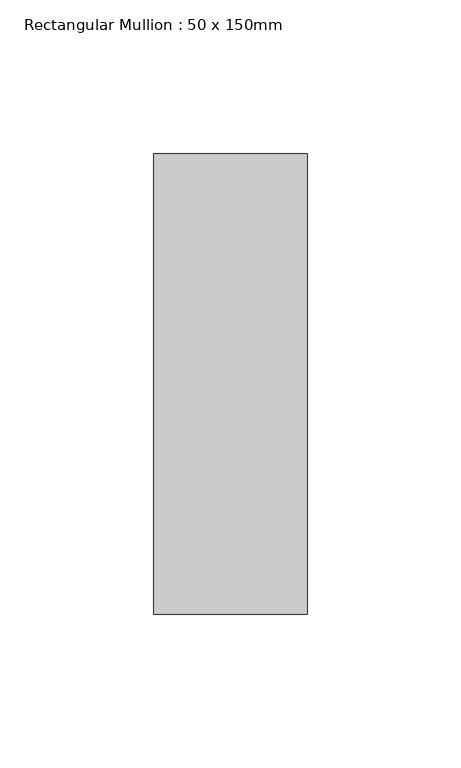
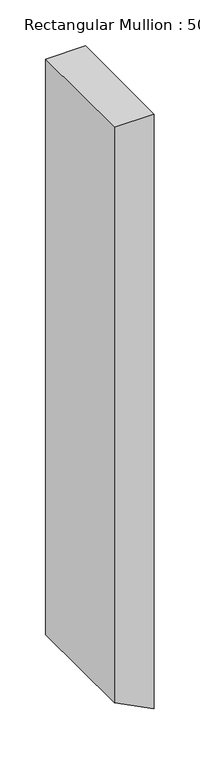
"""IFC4 building model written with IfcOpenShell, lengths in millimetres: member geometry, Rectangular Mullion : 50 x 150mm."""

import ifcopenshell
import ifcopenshell.guid

model = None  # the IFC model being written
_history = None  # IfcOwnerHistory: only IFC2X3 demands one
_inside = {}  # id of a spatial element -> (the spatial element, [elements in it])
_under = {}  # id of a project, library or spatial element -> (it, [spatial elements below it])
_declared = {}  # id of a project -> (the project, [libraries it declares])
_typed = {}  # id of a type object -> (the type object, [elements of that type])
_made_of = {}  # id of a material, layer set ... -> (it, [elements and type objects made of it])


def new_model(schema):
    """Start an empty IFC model of exactly this schema.

    Asked for "IFC4X3", IfcOpenShell would pick the latest addendum, in which some entities
    have other attributes; the version numbers below select the first issue.
    IFC2X3 requires an IfcOwnerHistory on every rooted entity: one is made here for all.
    """
    global model, _history
    if schema == "IFC4X3":
        model = ifcopenshell.file(schema_version=(4, 3, 0, 0))
    else:
        model = ifcopenshell.file(schema=schema)
    _inside.clear()
    _under.clear()
    _declared.clear()
    _typed.clear()
    _made_of.clear()
    _history = None
    if model.schema == "IFC2X3":
        org = make("IfcOrganization", Name="unknown")
        user = make(
            "IfcPersonAndOrganization",
            ThePerson=make("IfcPerson", FamilyName="unknown"),
            TheOrganization=org,
        )
        app = make(
            "IfcApplication",
            ApplicationDeveloper=org,
            Version="unknown",
            ApplicationFullName="unknown",
            ApplicationIdentifier="unknown",
        )
        _history = make(
            "IfcOwnerHistory",
            OwningUser=user,
            OwningApplication=app,
            ChangeAction="ADDED",
            CreationDate=0,
        )
    return model


def make(cls, **values):
    """One entity of the class cls with the attributes given. An attribute that is None is left unset."""
    return model.create_entity(
        cls, **{name: value for name, value in values.items() if value is not None}
    )


def rooted(cls, **values):
    """An entity with a GlobalId (a new one), such as an element, a storey or a relation."""
    return make(cls, GlobalId=ifcopenshell.guid.new(), OwnerHistory=_history, **values)


def si_unit(unit_type, name, prefix=None):
    """IfcSIUnit, for example si_unit("LENGTHUNIT", "METRE", prefix="MILLI")."""
    return make("IfcSIUnit", UnitType=unit_type, Prefix=prefix, Name=name)


def assignment(units):
    """IfcUnitAssignment: the units of a project."""
    return None if units is None else make("IfcUnitAssignment", Units=units)


def point(xyz):
    """IfcCartesianPoint."""
    return None if xyz is None else make("IfcCartesianPoint", Coordinates=xyz)


def direction(xyz):
    """IfcDirection."""
    return None if xyz is None else make("IfcDirection", DirectionRatios=xyz)


def frame(location, z_axis=None, x_axis=None):
    """IfcAxis2Placement3D, a coordinate frame: its origin and axes. An axis left out is left unset."""
    return make(
        "IfcAxis2Placement3D",
        Location=point(location),
        Axis=direction(z_axis),
        RefDirection=direction(x_axis),
    )


def origin():
    """The frame at (0, 0, 0) with its axes left unset."""
    return frame((0.0, 0.0, 0.0))


def place(relative_to, where):
    """IfcLocalPlacement: puts the frame where relative to a parent placement (None: the world)."""
    return make(
        "IfcLocalPlacement", PlacementRelTo=relative_to, RelativePlacement=where
    )


def context(
    kind, dimensions, precision=None, world=None, true_north=None, identifier=None
):
    """IfcGeometricRepresentationContext, for example the 3D "Model" context."""
    return make(
        "IfcGeometricRepresentationContext",
        ContextIdentifier=identifier,
        ContextType=kind,
        CoordinateSpaceDimension=dimensions,
        Precision=precision,
        WorldCoordinateSystem=world,
        TrueNorth=true_north,
    )


def project(units=None, contexts=None):
    """IfcProject with its units and contexts."""
    return rooted(
        "IfcProject",
        Name="project",
        RepresentationContexts=contexts,
        UnitsInContext=assignment(units),
    )


def spatial(cls, under=None, at=None, **own):
    """A site, building, storey or space (cls), placed at a placement, below another one or the project."""
    s = rooted(cls, ObjectPlacement=at, **own)
    if under is not None:
        _under.setdefault(under.id(), (under, []))[1].append(s)
    return s


def polyline(points):
    """IfcPolyline through the points."""
    return make("IfcPolyline", Points=[point(p) for p in points])


def outline(outer, holes=None, kind="AREA"):
    """IfcArbitraryClosedProfileDef: a profile drawn as a closed curve; with holes, ...WithVoids."""
    if holes is None:
        return make("IfcArbitraryClosedProfileDef", ProfileType=kind, OuterCurve=outer)
    return make(
        "IfcArbitraryProfileDefWithVoids",
        ProfileType=kind,
        OuterCurve=outer,
        InnerCurves=holes,
    )


def extrude(swept, where, along, depth):
    """IfcExtrudedAreaSolid: the profile swept, set in the frame where, extruded along a direction by depth."""
    return make(
        "IfcExtrudedAreaSolid",
        SweptArea=swept,
        Position=where,
        ExtrudedDirection=direction(along),
        Depth=depth,
    )


def shape(context_of_items, identifier, shape_type, items):
    """IfcShapeRepresentation: the items that make up one representation, for example the "Body"."""
    return make(
        "IfcShapeRepresentation",
        ContextOfItems=context_of_items,
        RepresentationIdentifier=identifier,
        RepresentationType=shape_type,
        Items=items,
    )


def source(mapping_origin, context_of_items, identifier, shape_type, items):
    """IfcRepresentationMap: a shape defined once, which mapped items show again and again."""
    return make(
        "IfcRepresentationMap",
        MappingOrigin=mapping_origin,
        MappedRepresentation=shape(context_of_items, identifier, shape_type, items),
    )


def transform(
    local_origin,
    x_axis=None,
    y_axis=None,
    z_axis=None,
    scale=None,
    scale2=None,
    scale3=None,
    uniform=True,
):
    """IfcCartesianTransformationOperator3D, or its non-uniform kind. x_axis, y_axis, z_axis: its Axis1, 2, 3."""
    if uniform:
        return make(
            "IfcCartesianTransformationOperator3D",
            Axis1=direction(x_axis),
            Axis2=direction(y_axis),
            LocalOrigin=point(local_origin),
            Scale=scale,
            Axis3=direction(z_axis),
        )
    return make(
        "IfcCartesianTransformationOperator3DnonUniform",
        Axis1=direction(x_axis),
        Axis2=direction(y_axis),
        LocalOrigin=point(local_origin),
        Scale=scale,
        Axis3=direction(z_axis),
        Scale2=scale2,
        Scale3=scale3,
    )


def mapped(mapping_source, mapping_target):
    """IfcMappedItem: shows the shape of a source again, moved by a transform."""
    return make(
        "IfcMappedItem", MappingSource=mapping_source, MappingTarget=mapping_target
    )


def made_of(thing, what):
    """Note that an element or type object is made of a material, layer set ...; save() writes the relation."""
    if what is not None:
        _made_of.setdefault(what.id(), (what, []))[1].append(thing)
    return thing


def element(
    cls,
    number,
    at=None,
    inside=None,
    cuts=None,
    type_object=None,
    material=None,
    context=None,
    identifier="Body",
    shape_type=None,
    held_by="IfcProductDefinitionShape",
    body=None,
    shapes=None,
    **own,
):
    """One element of the class cls, such as IfcWall. Its Tag is "e" and its number.

    at: its placement. inside: the storey or other place that contains it. cuts: it is an
    opening in that element (IfcRelVoidsElement). A single representation is given by context,
    identifier, shape_type and body (its items); several are given by shapes. held_by: the class
    of the entity that holds the representations. save() writes the other relations.
    """
    e = rooted(cls, Tag="e%d" % number, ObjectPlacement=at, **own)
    if body is not None:
        shapes = [shape(context, identifier, shape_type, body)]
    if shapes is not None:
        e.Representation = make(held_by, Representations=shapes)
    if inside is not None:
        _inside.setdefault(inside.id(), (inside, []))[1].append(e)
    if cuts is not None:
        rooted(
            "IfcRelVoidsElement", RelatingBuildingElement=cuts, RelatedOpeningElement=e
        )
    if type_object is not None:
        _typed.setdefault(type_object.id(), (type_object, []))[1].append(e)
    return made_of(e, material)


def aggregate(whole, parts):
    """IfcRelAggregates: a whole, such as a stair, and the parts it consists of."""
    return rooted("IfcRelAggregates", RelatingObject=whole, RelatedObjects=parts)


def save(model, path):
    """Write the relations noted so far, then the file.

    IfcRelAggregates (storeys below a building ...), IfcRelContainedInSpatialStructure (elements
    in a storey), IfcRelDefinesByType, IfcRelAssociatesMaterial and IfcRelDeclares: one each for
    every whole, place, type object, material and project.
    """
    for whole, parts in _under.values():
        aggregate(whole, parts)
    for where, things in _inside.values():
        rooted(
            "IfcRelContainedInSpatialStructure",
            RelatedElements=things,
            RelatingStructure=where,
        )
    for kind, things in _typed.values():
        rooted("IfcRelDefinesByType", RelatedObjects=things, RelatingType=kind)
    for what, things in _made_of.values():
        rooted("IfcRelAssociatesMaterial", RelatedObjects=things, RelatingMaterial=what)
    for by, libraries in _declared.values():
        rooted("IfcRelDeclares", RelatingContext=by, RelatedDefinitions=libraries)
    model.write(path)


def rectangular_mullion_50_x_150mm_aa3029b1(model_context):
    return source(origin(), model_context, "Body", "SweptSolid", [
        extrude(outline(polyline([(0.0, 0.0), (0.0, -50.0), (-765.6072331, -50.0), (-791.0835056, 0.0), (0.0, 0.0)])), frame((0.0, -75.0, 0.0), z_axis=(0.0, 1.0, 0.0), x_axis=(0.0, 0.0, 1.0)), (0.0, 0.0, 1.0), 150.0),
    ])


if __name__ == "__main__":
    model = new_model("IFC4")
    model_context = context("Model", 3, world=origin())
    ifc_project = project(units=[si_unit("LENGTHUNIT", "METRE", prefix="MILLI")], contexts=[model_context])
    site = spatial("IfcSite", under=ifc_project)
    building = spatial("IfcBuilding", under=site)
    placement = place(None, origin())
    rectangular_mullion_50_x_150mm_shape = rectangular_mullion_50_x_150mm_aa3029b1(model_context)
    element("IfcMember", 1, ObjectType="Rectangular Mullion : 50 x 150mm", at=placement, inside=building, context=model_context, shape_type="MappedRepresentation", body=[
        mapped(rectangular_mullion_50_x_150mm_shape, transform((0.0, 0.0, 0.0), x_axis=(1.0, 0.0, 0.0), y_axis=(0.0, 1.0, 0.0), z_axis=(0.0, 0.0, 1.0))),
    ])
    save(model, "model.ifc")
